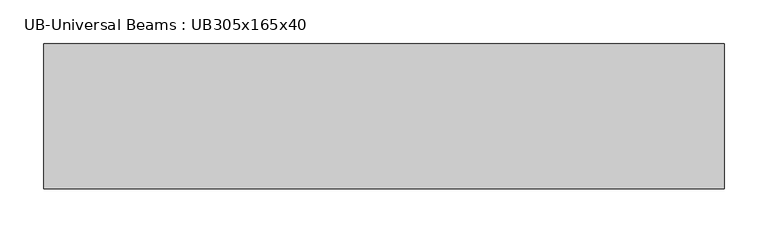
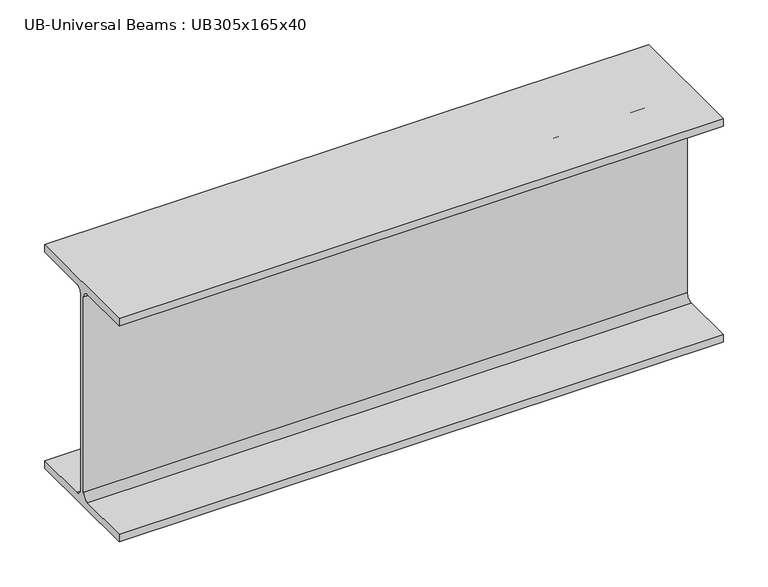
"""IFC4 building model written with IfcOpenShell, lengths in millimetres: beam geometry, UB-Universal Beams : UB305x165x40."""

from ifc_helpers import new_model, si_unit, point, frame, frame_2d, origin, place, context, project, spatial, polyline, circle_curve, trimmed, segment, composite_curve, outline, extrude, source, transform, mapped, element, save


def ub_universal_beams_ub305x165x40_83d7b7d5(model_context):
    return source(origin(), model_context, "Body", "SweptSolid", [
        extrude(outline(composite_curve([segment(polyline([(82.5, -141.5), (82.5, -151.7), (-82.5, -151.7), (-82.5, -141.5), (-11.9, -141.5)]), True, "CONTINUOUS"), segment(trimmed(circle_curve(frame_2d((-11.9, -132.6)), 8.9), [point((-11.9, -141.5))], [point((-3.0, -132.6))], True, "CARTESIAN"), True, "CONTINUOUS"), segment(polyline([(-3.0, -132.6), (-3.0, 132.6)]), True, "CONTINUOUS"), segment(trimmed(circle_curve(frame_2d((-11.9, 132.6)), 8.9), [point((-3.0, 132.6))], [point((-11.9, 141.5))], True, "CARTESIAN"), True, "CONTINUOUS"), segment(polyline([(-11.9, 141.5), (-82.5, 141.5), (-82.5, 151.7), (82.5, 151.7), (82.5, 141.5), (11.9, 141.5)]), True, "CONTINUOUS"), segment(trimmed(circle_curve(frame_2d((11.9, 132.6)), 8.9), [point((11.9, 141.5))], [point((3.0, 132.6))], True, "CARTESIAN"), True, "CONTINUOUS"), segment(polyline([(3.0, 132.6), (3.0, -132.6)]), True, "CONTINUOUS"), segment(trimmed(circle_curve(frame_2d((11.9, -132.6)), 8.9), [point((3.0, -132.6))], [point((11.9, -141.5))], True, "CARTESIAN"), True, "CONTINUOUS"), segment(polyline([(11.9, -141.5), (82.5, -141.5)]), True, "CONTINUOUS")], self_intersect=False)), frame((-454.8, 0.0, 0.0), z_axis=(1.0, 0.0, 0.0), x_axis=(0.0, 1.0, 0.0)), (0.0, 0.0, 1.0), 775.0),
    ])


if __name__ == "__main__":
    model = new_model("IFC4")
    model_context = context("Model", 3, world=origin())
    ifc_project = project(units=[si_unit("LENGTHUNIT", "METRE", prefix="MILLI")], contexts=[model_context])
    site = spatial("IfcSite", under=ifc_project)
    building = spatial("IfcBuilding", under=site)
    placement = place(None, origin())
    ub_universal_beams_ub305x165x40_shape = ub_universal_beams_ub305x165x40_83d7b7d5(model_context)
    element("IfcBeam", 1, ObjectType="UB-Universal Beams : UB305x165x40", at=placement, inside=building, context=model_context, shape_type="MappedRepresentation", body=[
        mapped(ub_universal_beams_ub305x165x40_shape, transform((0.0, 0.0, 0.0), x_axis=(1.0, 0.0, 0.0), y_axis=(0.0, 1.0, 0.0), z_axis=(0.0, 0.0, 1.0))),
    ])
    save(model, "model.ifc")
